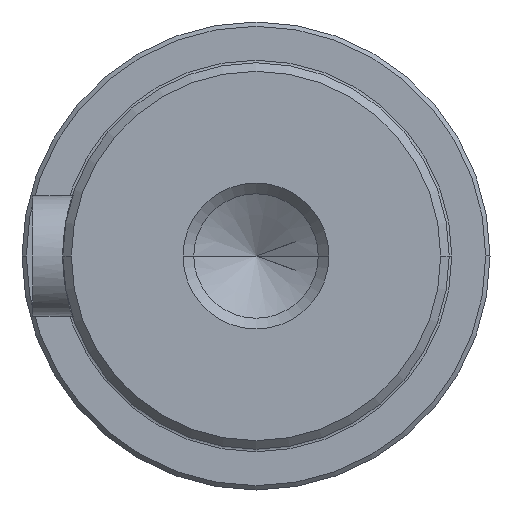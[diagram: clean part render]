
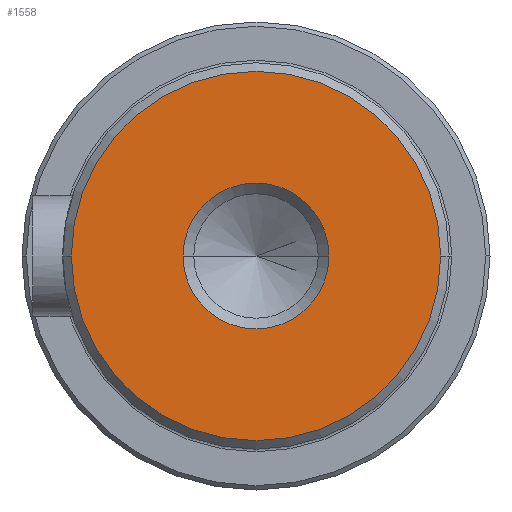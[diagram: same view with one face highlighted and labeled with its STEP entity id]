
A CAD part, left-side view. The second image highlights one B-rep face of the part: STEP entity #1558.
In plain terms, the highlighted planar face has unit normal (-1, 0, 0).
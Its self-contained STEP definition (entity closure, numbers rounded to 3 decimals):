
#468=CARTESIAN_POINT('',(0.,0.,0.));
#469=DIRECTION('',(1.,0.,0.));
#470=DIRECTION('',(0.,-1.,0.));
#471=AXIS2_PLACEMENT_3D('',#468,#469,#470);
#473=CARTESIAN_POINT('',(0.,0.,0.));
#474=DIRECTION('',(1.,0.,0.));
#475=DIRECTION('',(0.,0.,-1.));
#476=AXIS2_PLACEMENT_3D('',#473,#474,#475);
#478=CARTESIAN_POINT('',(0.,0.,0.));
#479=DIRECTION('',(1.,0.,0.));
#480=DIRECTION('',(0.,1.,0.));
#481=AXIS2_PLACEMENT_3D('',#478,#479,#480);
#483=CARTESIAN_POINT('',(0.,0.,0.));
#484=DIRECTION('',(-1.,0.,0.));
#485=DIRECTION('',(0.,1.,0.));
#486=AXIS2_PLACEMENT_3D('',#483,#484,#485);
#488=CARTESIAN_POINT('',(0.,0.,0.));
#489=DIRECTION('',(-1.,0.,0.));
#490=DIRECTION('',(0.,-1.,0.));
#491=AXIS2_PLACEMENT_3D('',#488,#489,#490);
#876=CARTESIAN_POINT('',(0.,21.5,0.));
#877=VERTEX_POINT('',#876);
#878=CARTESIAN_POINT('',(0.,0.,-21.5));
#879=VERTEX_POINT('',#878);
#880=CARTESIAN_POINT('',(0.,-21.5,0.));
#881=VERTEX_POINT('',#880);
#882=CARTESIAN_POINT('',(0.,8.5,0.));
#883=CARTESIAN_POINT('',(0.,-8.5,0.));
#884=VERTEX_POINT('',#882);
#885=VERTEX_POINT('',#883);
#1541=CARTESIAN_POINT('',(0.,0.,0.017));
#1542=DIRECTION('',(1.,0.,0.));
#1543=DIRECTION('',(0.,-1.,0.));
#1544=AXIS2_PLACEMENT_3D('',#1541,#1542,#1543);
#1545=PLANE('',#1544);
#1546=ORIENTED_EDGE('',*,*,#1530,.T.);
#1547=ORIENTED_EDGE('',*,*,#1528,.T.);
#1549=ORIENTED_EDGE('',*,*,#1548,.T.);
#1550=EDGE_LOOP('',(#1546,#1547,#1549));
#1551=FACE_OUTER_BOUND('',#1550,.F.);
#1553=ORIENTED_EDGE('',*,*,#1552,.T.);
#1555=ORIENTED_EDGE('',*,*,#1554,.T.);
#1556=EDGE_LOOP('',(#1553,#1555));
#1557=FACE_BOUND('',#1556,.F.);
#1558=ADVANCED_FACE('',(#1551,#1557),#1545,.F.);
#472=CIRCLE('',#471,21.5);
#477=CIRCLE('',#476,21.5);
#482=CIRCLE('',#481,21.5);
#487=CIRCLE('',#486,8.5);
#492=CIRCLE('',#491,8.5);
#1528=EDGE_CURVE('',#879,#877,#477,.T.);
#1530=EDGE_CURVE('',#881,#879,#472,.T.);
#1548=EDGE_CURVE('',#877,#881,#482,.T.);
#1552=EDGE_CURVE('',#884,#885,#487,.T.);
#1554=EDGE_CURVE('',#885,#884,#492,.T.);
